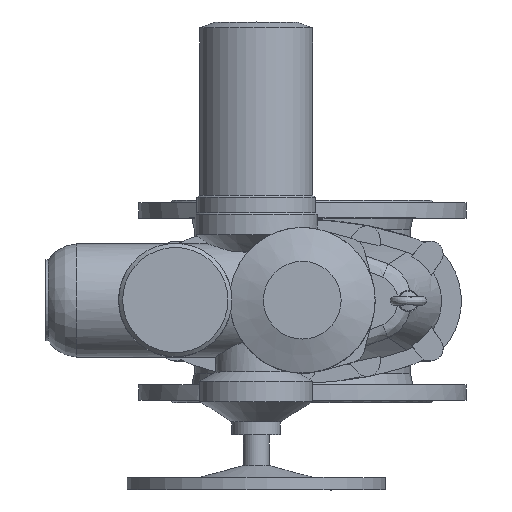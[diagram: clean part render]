
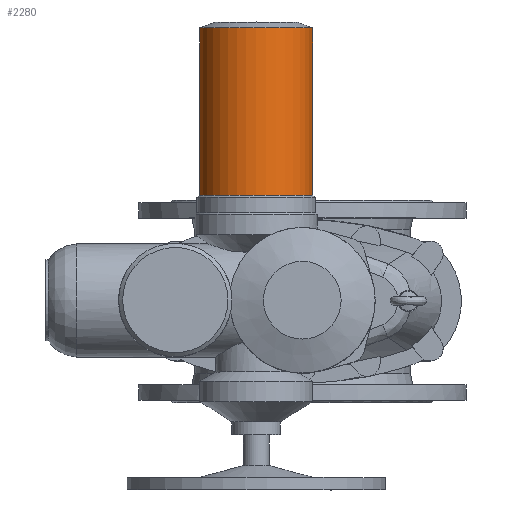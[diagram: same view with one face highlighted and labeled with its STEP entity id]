
A CAD part, top view. The second image highlights one B-rep face of the part: STEP entity #2280.
In plain terms, the highlighted cylindrical face has radius 70 mm (diameter 140 mm), a full revolution.
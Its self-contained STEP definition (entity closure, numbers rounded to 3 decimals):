
#2280=ADVANCED_FACE('',(#21941,#21943),#21945,.T.);
#21941=FACE_OUTER_BOUND('',#21942,.T.);
#21942=EDGE_LOOP('',(#24387));
#21943=FACE_OUTER_BOUND('',#21944,.T.);
#21944=EDGE_LOOP('',(#24388));
#21945=CYLINDRICAL_SURFACE('',#21946,70.);
#21946=AXIS2_PLACEMENT_3D('',#21947,#21948,#21949);
#21947=CARTESIAN_POINT('',(-57.,336.721,782.));
#21948=DIRECTION('',(0.,-1.,0.));
#21949=DIRECTION('',(0.,0.,1.));
#24387=ORIENTED_EDGE('',*,*,#25903,.T.);
#24388=ORIENTED_EDGE('',*,*,#25893,.F.);
#25893=EDGE_CURVE('',#27412,#27412,#27413,.T.);
#25903=EDGE_CURVE('',#27428,#27428,#27429,.T.);
#27412=VERTEX_POINT('',#34839);
#27413=CIRCLE('',#34840,70.);
#27428=VERTEX_POINT('',#34881);
#27429=CIRCLE('',#34882,70.);
#34839=CARTESIAN_POINT('',(-57.,129.807,852.));
#34840=AXIS2_PLACEMENT_3D('',#34841,#34842,#34843);
#34841=CARTESIAN_POINT('',(-57.,129.807,782.));
#34842=DIRECTION('',(0.,-1.,0.));
#34843=DIRECTION('',(0.,0.,1.));
#34881=CARTESIAN_POINT('',(-57.,336.721,852.));
#34882=AXIS2_PLACEMENT_3D('',#34883,#34884,#34885);
#34883=CARTESIAN_POINT('',(-57.,336.721,782.));
#34884=DIRECTION('',(0.,-1.,0.));
#34885=DIRECTION('',(0.,0.,1.));
